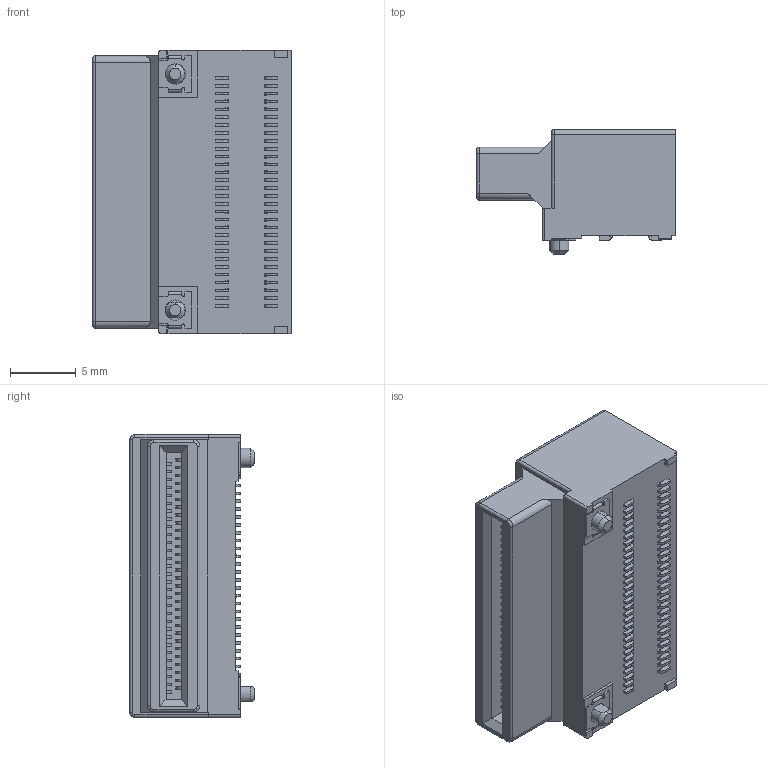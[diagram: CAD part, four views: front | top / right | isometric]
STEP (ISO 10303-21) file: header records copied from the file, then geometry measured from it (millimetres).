
FILE_DESCRIPTION((''),'2;1');
FILE_NAME('OSFP224_1X1_PEP060-7531-001-1H_','2026-06-22T09:38:26',('39002408'),(''),'CREO PARAMETRIC BY PTC INC, 2019471','CREO PARAMETRIC BY PTC INC, 2019471','');
FILE_SCHEMA(('CONFIG_CONTROL_DESIGN'));
Length unit declared in the file: millimetre
Products named in the file (1): OSFP224_1X1_PEP060-7531-001-1H_
Bounding box: 15.16 x 9.5 x 21.58 mm (x, y, z)
Volume: 2068.6 mm3; surface area: 1517.1 mm2
Topology: 1 solids, 3 shells, 1271 faces, 3358 edges, 2233 vertices
Faces by surface type: plane 840, cylinder 421, torus 4, cone 4, bspline 2
Entity records: 39640 total; most frequent: CARTESIAN_POINT 8073, ORIENTED_EDGE 6716, DIRECTION 6121, EDGE_CURVE 3358, VECTOR 2585, LINE 2585, VERTEX_POINT 2233, AXIS2_PLACEMENT_3D 1768
